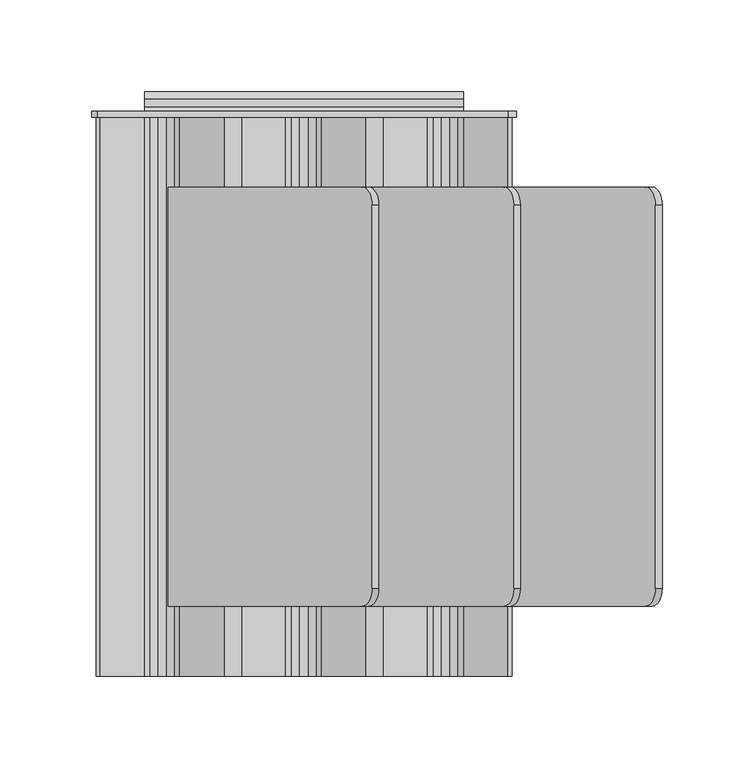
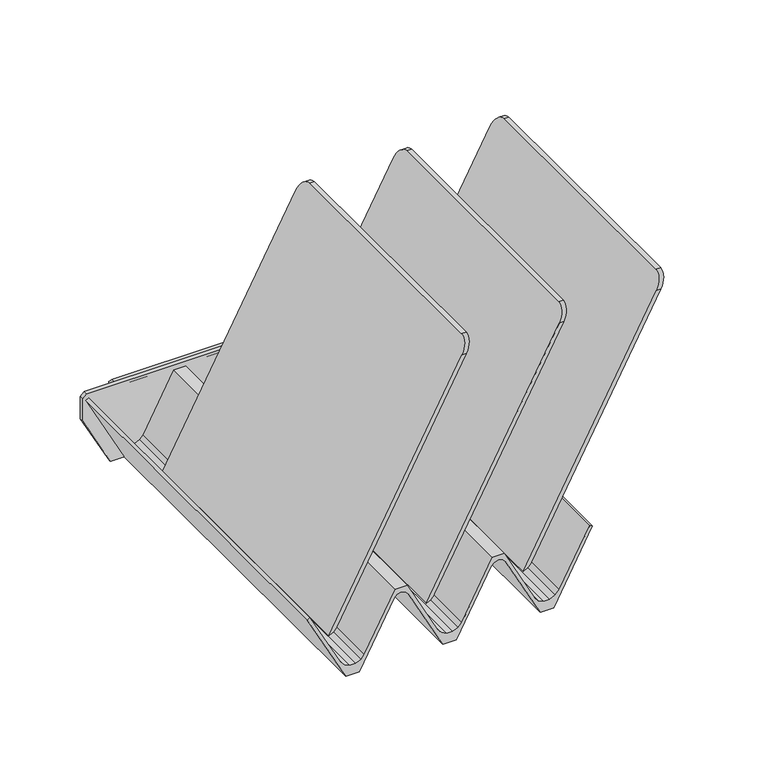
"""IFC4 building model written with IfcOpenShell, lengths in millimetres: furniture geometry."""

from ifc_helpers import new_model, si_unit, point, frame, frame_2d, origin, place, context, project, spatial, polyline, circle_curve, ellipse_curve, trimmed, segment, composite_curve, outline, extrude, source, transform, mapped, element, save
from ifc_brep_helpers import plane_surface, cylinder_surface, advanced_brep


def furniture_043fa3d8(model_context):
    return source(origin(), model_context, "Body", "SolidModel", [
        advanced_brep(
        [(-78.5076305, -115.8875182, 888.57582), (-74.9117341, -115.8875182, 888.57582), (35.3237269, -115.8875182, 1095.8985634), (31.7278836, -115.8875182, 1095.8985634), (-74.9117341, 112.7124864, 888.57582), (-78.5076305, 112.7124864, 888.57582), (31.7278836, 112.7124864, 1095.8985634), (35.3237269, 112.7124864, 1095.8985634), (40.728424, 102.8883555, 1106.06332), (40.728424, -105.9830355, 1106.06332), (37.1325833, 102.8883555, 1106.06332), (37.1325833, -105.9830355, 1106.06332)],
        [
            (0, 1),
            (1, 2),
            (2, 3),
            (3, 0),
            (4, 5),
            (5, 6),
            (6, 7),
            (7, 4),
            (0, 5),
            (4, 1),
            (7, 8, ellipse_curve(frame((35.3237269, 102.5418246, 1095.8985634), z_axis=(0.8829475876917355, 0.0, -0.46947157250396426), x_axis=(-0.4694715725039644, 0.0, -0.8829475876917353)), 11.518987, 10.1706618)),
            (8, 9),
            (9, 2, ellipse_curve(frame((35.3237269, -105.7193418, 1095.8985634), z_axis=(0.8829475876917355, 0.0, -0.46947157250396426), x_axis=(-0.4694715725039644, 0.0, -0.8829475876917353)), 11.5161721, 10.1681764)),
            (8, 10),
            (10, 11),
            (11, 9),
            (3, 11, ellipse_curve(frame((31.7278836, -105.7193418, 1095.8985634), z_axis=(-0.8829474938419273, 0.0, 0.46947174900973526), x_axis=(-0.4694717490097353, 0.0, -0.8829474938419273)), 11.5161734, 10.1681764)),
            (10, 6, ellipse_curve(frame((31.7278836, 102.5418246, 1095.8985634), z_axis=(-0.8829474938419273, 0.0, 0.46947174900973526), x_axis=(-0.4694717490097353, 0.0, -0.8829474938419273)), 11.5189882, 10.1706618)),
        ],
        [
            plane_surface(frame((-78.5076305, -115.8875182, 888.57582), z_axis=(0.0, -1.0, 0.0), x_axis=(1.0, 0.0, 0.0))),
            plane_surface(frame((-78.5076305, 112.7124864, 888.57582), z_axis=(0.0, 1.0, 0.0), x_axis=(-1.0, 0.0, 0.0))),
            plane_surface(frame((-78.5076305, -115.8875182, 888.57582), z_axis=(0.0, 0.0, -1.0), x_axis=(0.0, 1.0, 0.0))),
            plane_surface(frame((-74.9117341, -115.8875182, 888.57582), z_axis=(0.8829475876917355, 0.0, -0.46947157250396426), x_axis=(0.0, 1.0, 0.0))),
            plane_surface(frame((40.728424, -115.8875182, 1106.06332), z_axis=(0.0, 0.0, 1.0), x_axis=(0.0, 1.0, 0.0))),
            plane_surface(frame((37.1325833, -115.8875182, 1106.06332), z_axis=(-0.8829474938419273, 0.0, 0.46947174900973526), x_axis=(0.0, 1.0, 0.0))),
            cylinder_surface(frame((0.0, 102.5418246, 1095.8985634), z_axis=(-1.0, 0.0, 0.0), x_axis=(0.0, 1.0, 0.0)), 10.1706618),
            cylinder_surface(frame((0.0, -105.7193418, 1095.8985634), z_axis=(-1.0, 0.0, 0.0), x_axis=(0.0, 1.0, 0.0)), 10.1681764),
        ],
        [
            (0, [[1, 2, 3, 4]]),
            (1, [[5, 6, 7, 8]]),
            (2, [[-1, 9, -5, 10]]),
            (3, [[-10, -8, 11, 12, 13, -2]]),
            (4, [[-12, 14, 15, 16]]),
            (5, [[-9, -4, 17, -15, 18, -6]]),
            (6, [[-7, -18, -14, -11]]),
            (7, [[-3, -13, -16, -17]]),
        ],
    ),
        advanced_brep(
        [(-0.9107932, -115.8875182, 888.57582), (2.3550823, -115.8875182, 888.57582), (112.5905464, -115.8875182, 1095.8985634), (109.0097063, -115.8875182, 1095.8985634), (2.3550823, 112.7124864, 888.57582), (-0.9107932, 112.7124864, 888.57582), (109.0097063, 112.7124864, 1095.8985634), (112.5905464, 112.7124864, 1095.8985634), (117.9952436, 102.8883555, 1106.06332), (117.9952436, -105.9830355, 1106.06332), (114.3989613, 102.8883555, 1106.06332), (114.3989613, -105.9830355, 1106.06332)],
        [
            (0, 1),
            (1, 2),
            (2, 3),
            (3, 0),
            (4, 5),
            (5, 6),
            (6, 7),
            (7, 4),
            (0, 5),
            (4, 1),
            (7, 8, ellipse_curve(frame((112.5905464, 102.5418246, 1095.8985634), z_axis=(0.882947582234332, 0.0, -0.4694715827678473), x_axis=(-0.469471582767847, 0.0, -0.882947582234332)), 11.518987, 10.1706618)),
            (8, 9),
            (9, 2, ellipse_curve(frame((112.5905464, -105.7193418, 1095.8985634), z_axis=(0.882947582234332, 0.0, -0.4694715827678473), x_axis=(-0.469471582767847, 0.0, -0.882947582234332)), 11.5161722, 10.1681764)),
            (8, 10),
            (10, 11),
            (11, 9),
            (3, 11, ellipse_curve(frame((109.0097063, -105.7193418, 1095.8985634), z_axis=(-0.8835033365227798, 0.0, 0.46842486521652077), x_axis=(-0.46842486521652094, 0.0, -0.8835033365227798)), 11.5089281, 10.1681764)),
            (10, 6, ellipse_curve(frame((109.0097063, 102.5418246, 1095.8985634), z_axis=(-0.8835033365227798, 0.0, 0.46842486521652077), x_axis=(-0.46842486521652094, 0.0, -0.8835033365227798)), 11.5117412, 10.1706618)),
        ],
        [
            plane_surface(frame((-78.5076305, -115.8875182, 888.57582), z_axis=(0.0, -1.0, 0.0), x_axis=(1.0, 0.0, 0.0))),
            plane_surface(frame((-78.5076305, 112.7124864, 888.57582), z_axis=(0.0, 1.0, 0.0), x_axis=(-1.0, 0.0, 0.0))),
            plane_surface(frame((-0.9107932, -115.8875182, 888.57582), z_axis=(0.0, 0.0, -1.0), x_axis=(0.0, 1.0, 0.0))),
            plane_surface(frame((2.3550823, -115.8875182, 888.57582), z_axis=(0.882947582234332, 0.0, -0.4694715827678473), x_axis=(0.0, 1.0, 0.0))),
            plane_surface(frame((117.9952436, -115.8875182, 1106.06332), z_axis=(0.0, 0.0, 1.0), x_axis=(0.0, 1.0, 0.0))),
            plane_surface(frame((114.3989613, -115.8875182, 1106.06332), z_axis=(-0.8835033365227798, 0.0, 0.46842486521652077), x_axis=(0.0, 1.0, 0.0))),
            cylinder_surface(frame((0.0, 102.5418246, 1095.8985634), z_axis=(-1.0, 0.0, 0.0), x_axis=(0.0, 1.0, 0.0)), 10.1706618),
            cylinder_surface(frame((0.0, -105.7193418, 1095.8985634), z_axis=(-1.0, 0.0, 0.0), x_axis=(0.0, 1.0, 0.0)), 10.1681764),
        ],
        [
            (0, [[1, 2, 3, 4]]),
            (1, [[5, 6, 7, 8]]),
            (2, [[-1, 9, -5, 10]]),
            (3, [[-10, -8, 11, 12, 13, -2]]),
            (4, [[-12, 14, 15, 16]]),
            (5, [[-9, -4, 17, -15, 18, -6]]),
            (6, [[-7, -18, -14, -11]]),
            (7, [[-3, -13, -16, -17]]),
        ],
    ),
        advanced_brep(
        [(76.0259689, -115.8875182, 888.57582), (79.7811739, -115.8875182, 888.57582), (190.0166176, -115.8875182, 1095.8985634), (186.2614289, -115.8875182, 1095.8985634), (79.7811739, 112.7124864, 888.57582), (76.0259689, 112.7124864, 888.57582), (186.2614289, 112.7124864, 1095.8985634), (190.0166176, 112.7124864, 1095.8985634), (195.4213139, 102.8883555, 1106.06332), (195.4213139, -105.9830355, 1106.06332), (191.666126, 102.8883555, 1106.06332), (191.666126, -105.9830355, 1106.06332)],
        [
            (0, 1),
            (1, 2),
            (2, 3),
            (3, 0),
            (4, 5),
            (5, 6),
            (6, 7),
            (7, 4),
            (0, 5),
            (4, 1),
            (7, 8, ellipse_curve(frame((190.0166176, 102.5418246, 1095.8985634), z_axis=(0.8829476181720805, 0.0, -0.46947151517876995), x_axis=(-0.46947151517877, 0.0, -0.8829476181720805)), 11.5189866, 10.1706618)),
            (8, 9),
            (9, 2, ellipse_curve(frame((190.0166176, -105.7193418, 1095.8985634), z_axis=(0.8829476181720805, 0.0, -0.46947151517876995), x_axis=(-0.46947151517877, 0.0, -0.8829476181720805)), 11.5161717, 10.1681764)),
            (8, 10),
            (10, 11),
            (11, 9),
            (3, 11, ellipse_curve(frame((186.2614289, -105.7193418, 1095.8985634), z_axis=(-0.8829475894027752, 0.0, 0.46947156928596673), x_axis=(-0.4694715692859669, 0.0, -0.8829475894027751)), 11.5161721, 10.1681764)),
            (10, 6, ellipse_curve(frame((186.2614289, 102.5418246, 1095.8985634), z_axis=(-0.8829475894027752, 0.0, 0.46947156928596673), x_axis=(-0.4694715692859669, 0.0, -0.8829475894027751)), 11.5189869, 10.1706618)),
        ],
        [
            plane_surface(frame((-78.5076305, -115.8875182, 888.57582), z_axis=(0.0, -1.0, 0.0), x_axis=(1.0, 0.0, 0.0))),
            plane_surface(frame((-78.5076305, 112.7124864, 888.57582), z_axis=(0.0, 1.0, 0.0), x_axis=(-1.0, 0.0, 0.0))),
            plane_surface(frame((76.0259689, -115.8875182, 888.57582), z_axis=(0.0, 0.0, -1.0), x_axis=(0.0, 1.0, 0.0))),
            plane_surface(frame((79.7811739, -115.8875182, 888.57582), z_axis=(0.8829476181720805, 0.0, -0.46947151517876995), x_axis=(0.0, 1.0, 0.0))),
            plane_surface(frame((195.4213139, -115.8875182, 1106.06332), z_axis=(0.0, 0.0, 1.0), x_axis=(0.0, 1.0, 0.0))),
            plane_surface(frame((191.666126, -115.8875182, 1106.06332), z_axis=(-0.8829475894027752, 0.0, 0.46947156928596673), x_axis=(0.0, 1.0, 0.0))),
            cylinder_surface(frame((0.0, 102.5418246, 1095.8985634), z_axis=(-1.0, 0.0, 0.0), x_axis=(0.0, 1.0, 0.0)), 10.1706618),
            cylinder_surface(frame((0.0, -105.7193418, 1095.8985634), z_axis=(-1.0, 0.0, 0.0), x_axis=(0.0, 1.0, 0.0)), 10.1681764),
        ],
        [
            (0, [[1, 2, 3, 4]]),
            (1, [[5, 6, 7, 8]]),
            (2, [[-1, 9, -5, 10]]),
            (3, [[-10, -8, 11, 12, 13, -2]]),
            (4, [[-12, 14, 15, 16]]),
            (5, [[-9, -4, 17, -15, 18, -6]]),
            (6, [[-7, -18, -14, -11]]),
            (7, [[-3, -13, -16, -17]]),
        ],
    ),
        extrude(outline(polyline([(946.7623704, -113.3404132), (888.57582, -82.6180755), (888.57582, -71.8286766), (941.0998823, -44.096121), (943.3664631, -41.9545616), (944.2781962, -38.676187), (943.3664631, -35.3978079), (940.8930771, -33.0608503), (888.57582, -5.4374818), (888.57582, 5.4381185), (941.0998814, 33.170679), (943.3664631, 35.3122394), (944.2781962, 38.5906094), (943.3664631, 41.8689885), (940.8372559, 44.2586883), (888.57582, 71.9155202), (888.57582, 82.7049229), (946.762366, 113.4272483), (947.8786632, 111.3130508), (902.4313296, 87.1482781), (898.7759741, 84.0519156), (896.7615304, 79.7054876), (896.7615304, 74.9149551), (898.7759741, 70.5685271), (902.5363561, 67.3831993), (947.9483184, 43.2968127), (947.9483184, 33.9240014), (901.9262475, 9.4536309), (898.7759741, 6.7851111), (896.7615304, 2.4386922), (896.7615304, -2.3518493), (899.2112946, -6.6982682), (902.7707821, -9.9738698), (947.9483184, -33.8274808), (947.9483184, -43.3428158), (901.9261947, -67.8132137), (898.7759741, -70.4816887), (896.7615304, -74.8281031), (896.7615304, -79.6186492), (898.7759741, -83.9650636), (902.4313462, -87.0614424), (947.948323, -111.0942793), (946.7623704, -113.3404132)])), frame((0.0, -153.9875, 0.0), z_axis=(0.0, 1.0, 0.0), x_axis=(0.0, 0.0, 1.0)), (0.0, 0.0, 1.0), 304.7999878),
        extrude(outline(polyline([(948.9008194, -115.844077), (930.2657807, -115.844077), (888.57582, -93.8318941), (888.57582, 93.918737), (930.2657807, 115.930929), (948.9008184, 115.930929), (952.0758185, 111.5932577), (952.0758185, -112.669078), (948.9008194, -115.844077)])), frame((0.0, 150.8124878, 0.0), z_axis=(0.0, 1.0, 0.0), x_axis=(0.0, 0.0, 1.0)), (0.0, 0.0, 1.0), 3.1750122),
        extrude(outline(composite_curve([segment(polyline([(164.6784774, 945.0870314), (164.6784774, 942.5092805)]), True, "CONTINUOUS"), segment(trimmed(circle_curve(frame_2d((162.7734784, 942.5092805)), 1.904999), [point((164.6784774, 942.5092805))], [point((160.8684793, 942.5092805))], False, "CARTESIAN"), True, "CONTINUOUS"), segment(polyline([(160.8684793, 942.5092805), (160.8684793, 945.0870314), (156.5435882, 945.0870314), (153.9875, 942.5309432), (153.9875, 952.0758185), (156.5435882, 948.8970313), (160.8684775, 948.8970313), (164.6784774, 945.0870314)]), True, "CONTINUOUS")], self_intersect=False)), frame((-87.0345642, 0.0, 0.0), z_axis=(1.0, 0.0, 0.0), x_axis=(0.0, 1.0, 0.0)), (0.0, 0.0, 1.0), 174.0691284),
    ])


if __name__ == "__main__":
    model = new_model("IFC4")
    model_context = context("Model", 3, world=origin())
    ifc_project = project(units=[si_unit("LENGTHUNIT", "METRE", prefix="MILLI")], contexts=[model_context])
    site = spatial("IfcSite", under=ifc_project)
    building = spatial("IfcBuilding", under=site)
    placement = place(None, origin())
    furniture_shape = furniture_043fa3d8(model_context)
    element("IfcFurniture", 1, ObjectType="HermanMiller_ThrivePortfolio_Y7218_DiagonalTray : 8 1/2\"H x 12\"D x 13\"W", at=placement, inside=building, context=model_context, shape_type="MappedRepresentation", body=[
        mapped(furniture_shape, transform((0.0, 0.0, 0.0), x_axis=(1.0, 0.0, 0.0), y_axis=(0.0, 1.0, 0.0), z_axis=(0.0, 0.0, 1.0))),
    ])
    save(model, "model.ifc")
